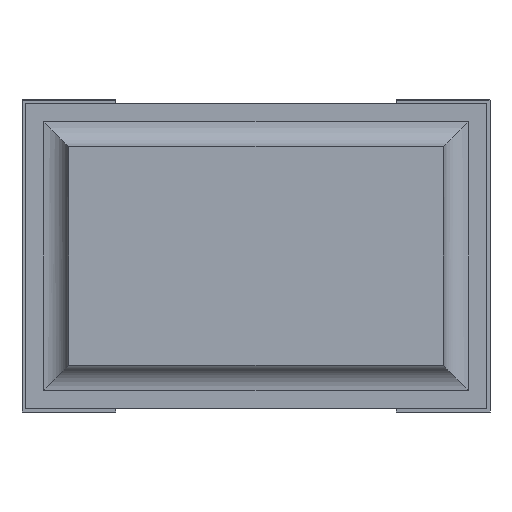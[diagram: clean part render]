
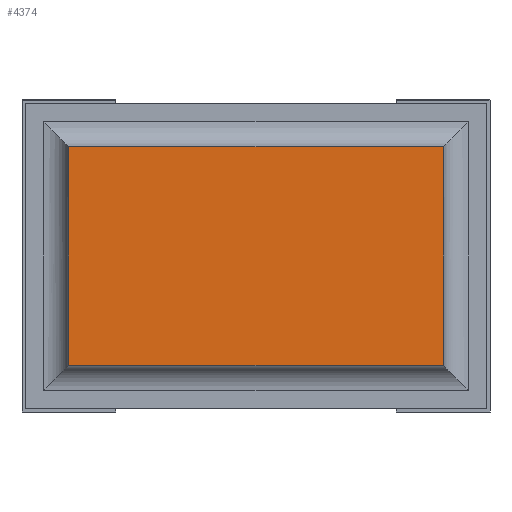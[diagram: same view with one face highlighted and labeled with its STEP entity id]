
A CAD part, front view. The second image highlights one B-rep face of the part: STEP entity #4374.
In plain terms, the highlighted planar face has unit normal (0, -1, 0).
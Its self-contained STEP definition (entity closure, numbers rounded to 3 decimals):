
#59=PLANE('',#4682);
#276=FACE_OUTER_BOUND('',#548,.T.);
#548=EDGE_LOOP('',(#3071,#3072,#3073,#3074));
#835=LINE('',#6250,#1407);
#838=LINE('',#6256,#1410);
#839=LINE('',#6259,#1411);
#840=LINE('',#6260,#1412);
#1407=VECTOR('',#5019,10.);
#1410=VECTOR('',#5024,10.);
#1411=VECTOR('',#5027,10.);
#1412=VECTOR('',#5028,10.);
#2035=VERTEX_POINT('',#6246);
#2036=VERTEX_POINT('',#6248);
#2038=VERTEX_POINT('',#6254);
#2039=VERTEX_POINT('',#6258);
#2437=EDGE_CURVE('',#2035,#2036,#835,.T.);
#2440=EDGE_CURVE('',#2038,#2036,#838,.T.);
#2441=EDGE_CURVE('',#2039,#2038,#839,.T.);
#2442=EDGE_CURVE('',#2035,#2039,#840,.T.);
#3071=ORIENTED_EDGE('',*,*,#2440,.F.);
#3072=ORIENTED_EDGE('',*,*,#2441,.F.);
#3073=ORIENTED_EDGE('',*,*,#2442,.F.);
#3074=ORIENTED_EDGE('',*,*,#2437,.T.);
#4374=ADVANCED_FACE('',(#276),#59,.T.);
#4682=AXIS2_PLACEMENT_3D('',#6257,#5025,#5026);
#5019=DIRECTION('',(0.,0.,-1.));
#5024=DIRECTION('',(-1.,0.,0.));
#5025=DIRECTION('center_axis',(0.,-1.,0.));
#5026=DIRECTION('ref_axis',(0.,0.,-1.));
#5027=DIRECTION('',(0.,0.,-1.));
#5028=DIRECTION('',(1.,0.,0.));
#6246=CARTESIAN_POINT('',(0.075,0.,0.425));
#6248=CARTESIAN_POINT('',(0.075,0.,0.075));
#6250=CARTESIAN_POINT('',(0.075,0.,0.425));
#6254=CARTESIAN_POINT('',(0.675,0.,0.075));
#6256=CARTESIAN_POINT('',(0.675,0.,0.075));
#6257=CARTESIAN_POINT('Origin',(0.676,0.,0.25));
#6258=CARTESIAN_POINT('',(0.675,0.,0.425));
#6259=CARTESIAN_POINT('',(0.675,0.,0.425));
#6260=CARTESIAN_POINT('',(0.075,0.,0.425));
